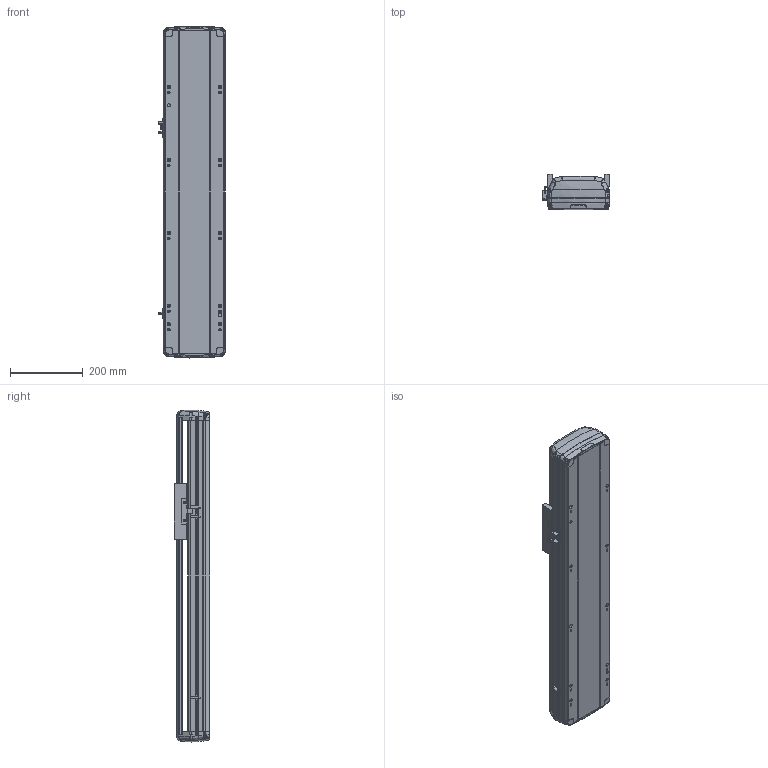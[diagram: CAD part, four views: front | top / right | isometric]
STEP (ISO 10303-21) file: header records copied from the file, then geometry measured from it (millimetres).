
FILE_DESCRIPTION (( 'STEP AP214' ), '1' );
FILE_NAME ('RTH17-XX-500-B-M40-C4.STEP', '2025-10-24T08:33:15', ( '' ), ( '' ), 'SwSTEP 2.0', 'SolidWorks 2018', '' );
FILE_SCHEMA (( 'AUTOMOTIVE_DESIGN' ));
Length unit declared in the file: millimetre
Products named in the file (7): N_RTH17-M-011底座^RTH17-XX-XX-B-M40-C4（方程式）; N_RTH17-GY-001P^RTH17-XX-XX-B-M40-C4（方程式）; N_RTH-L-012 感应片(外置)^RTH17-XX-XX-B-M40-C4（方程式）; RTH17-XX-500-B-M40-C4; N_RTH17-E-004丝杆螺母连接座^RTH17-XX-XX-B-M40-C4（方程式）; N_RTH17-M-007上盖^RTH17-XX-XX-B-M40-C4（方程式）; N_OMRON EE-SX672 換覜ん^RTH17-XX-XX-B-M40-C4ㄗ源最宒ㄘ
Assembly tree (9 placements, depth 2):
  RTH17-XX-500-B-M40-C4
    N_RTH17-M-011底座^RTH17-XX-XX-B-M40-C4（方程式）
    N_RTH17-M-007上盖^RTH17-XX-XX-B-M40-C4（方程式）
    N_OMRON EE-SX672 換覜ん^RTH17-XX-XX-B-M40-C4ㄗ源最宒ㄘ  x3
    N_RTH-L-012 感应片(外置)^RTH17-XX-XX-B-M40-C4（方程式）
    N_RTH17-E-004丝杆螺母连接座^RTH17-XX-XX-B-M40-C4（方程式）
    N_RTH17-GY-001P^RTH17-XX-XX-B-M40-C4（方程式）  x2
Bounding box: 183.5 x 97 x 909.88 mm (x, y, z)
Volume: 6791625.6 mm3; surface area: 973515.9 mm2
Topology: 7 solids, 11 shells, 1720 faces, 4826 edges, 3134 vertices
Faces by surface type: plane 809, cylinder 445, bspline 420, cone 28, torus 18
Entity records: 40278 total; most frequent: CARTESIAN_POINT 16789, ORIENTED_EDGE 5156, DIRECTION 4066, EDGE_CURVE 2582, VERTEX_POINT 1688, VECTOR 1418, LINE 1418, AXIS2_PLACEMENT_3D 1324
